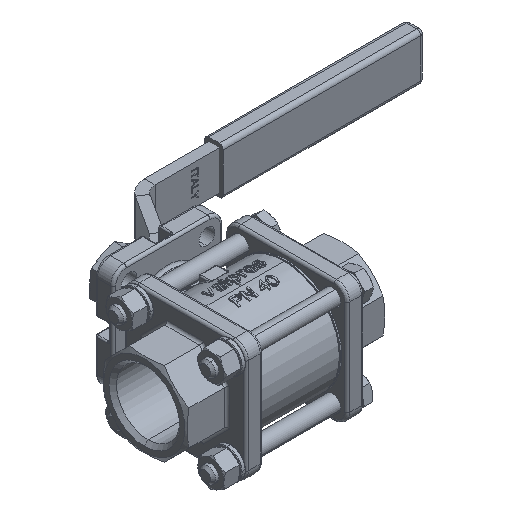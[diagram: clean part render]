
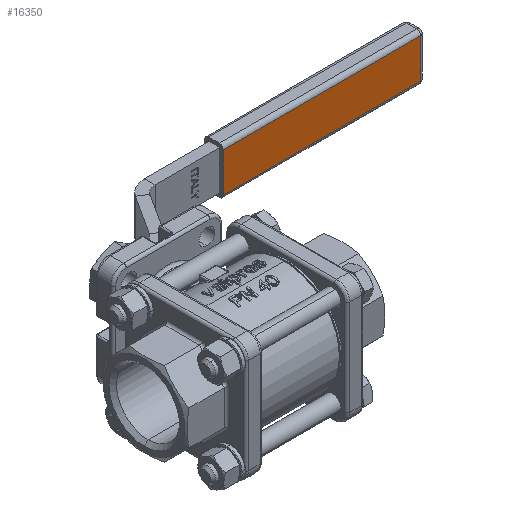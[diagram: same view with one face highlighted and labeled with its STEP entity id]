
A CAD part, isometric view. The second image highlights one B-rep face of the part: STEP entity #16350.
In plain terms, the highlighted planar face has unit normal (0, -1, 0).
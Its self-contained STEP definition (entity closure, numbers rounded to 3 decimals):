
#12491 = CARTESIAN_POINT ( 'NONE',  ( 129.504, 61.997, -7.5 ) ) ;
#12499 = CARTESIAN_POINT ( 'NONE',  ( 129.504, 61.997, 7.5 ) ) ;
#12594 = DIRECTION ( 'NONE',  ( 0., 0., -1. ) ) ;
#12595 = VECTOR ( 'NONE', #12594, 1000. ) ;
#12596 = CARTESIAN_POINT ( 'NONE',  ( 129.504, 61.997, 0. ) ) ;
#12597 = LINE ( 'NONE', #12596, #12595 ) ;
#12683 = CARTESIAN_POINT ( 'NONE',  ( 54.004, 61.997, 7.5 ) ) ;
#12746 = LINE ( 'NONE', #12784, #12783 ) ;
#12771 = CARTESIAN_POINT ( 'NONE',  ( 54.004, 61.997, -7.5 ) ) ;
#12772 = DIRECTION ( 'NONE',  ( 0., 0., -1. ) ) ;
#12773 = VECTOR ( 'NONE', #12772, 1000. ) ;
#12774 = CARTESIAN_POINT ( 'NONE',  ( 54.004, 61.997, 0. ) ) ;
#12775 = LINE ( 'NONE', #12774, #12773 ) ;
#12776 = DIRECTION ( 'NONE',  ( 0., 0., 1. ) ) ;
#12777 = DIRECTION ( 'NONE',  ( 0., 1., 0. ) ) ;
#12778 = CARTESIAN_POINT ( 'NONE',  ( 54.004, 61.997, -7.5 ) ) ;
#12779 = AXIS2_PLACEMENT_3D ( 'NONE', #12778, #12777, #12776 ) ;
#12780 = PLANE ( 'NONE',  #12779 ) ;
#12781 = FACE_OUTER_BOUND ( 'NONE', #16352, .T. ) ;
#12782 = DIRECTION ( 'NONE',  ( 1., 0., 0. ) ) ;
#12783 = VECTOR ( 'NONE', #12782, 1000. ) ;
#12784 = CARTESIAN_POINT ( 'NONE',  ( 91.754, 61.997, 7.5 ) ) ;
#12833 = DIRECTION ( 'NONE',  ( 1., 0., 0. ) ) ;
#12834 = VECTOR ( 'NONE', #12833, 1000. ) ;
#12835 = CARTESIAN_POINT ( 'NONE',  ( 91.754, 61.997, -7.5 ) ) ;
#12836 = LINE ( 'NONE', #12835, #12834 ) ;
#16140 = VERTEX_POINT ( 'NONE', #12499 ) ;
#16154 = VERTEX_POINT ( 'NONE', #12491 ) ;
#16236 = EDGE_CURVE ( 'NONE', #16140, #16154, #12597, .T. ) ;
#16282 = VERTEX_POINT ( 'NONE', #12683 ) ;
#16346 = EDGE_CURVE ( 'NONE', #16282, #16140, #12746, .T. ) ;
#16350 = ADVANCED_FACE ( 'NONE', ( #12781 ), #12780, .F. ) ;
#16352 = EDGE_LOOP ( 'NONE', ( #16354, #16356, #16358, #16364 ) ) ;
#16354 = ORIENTED_EDGE ( 'NONE', *, *, #16236, .F. ) ;
#16356 = ORIENTED_EDGE ( 'NONE', *, *, #16346, .F. ) ;
#16358 = ORIENTED_EDGE ( 'NONE', *, *, #16360, .T. ) ;
#16360 = EDGE_CURVE ( 'NONE', #16282, #16362, #12775, .T. ) ;
#16362 = VERTEX_POINT ( 'NONE', #12771 ) ;
#16364 = ORIENTED_EDGE ( 'NONE', *, *, #16369, .T. ) ;
#16369 = EDGE_CURVE ( 'NONE', #16362, #16154, #12836, .T. ) ;
